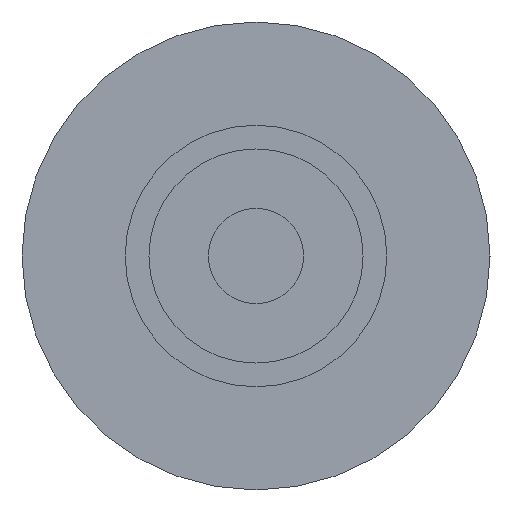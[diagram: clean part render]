
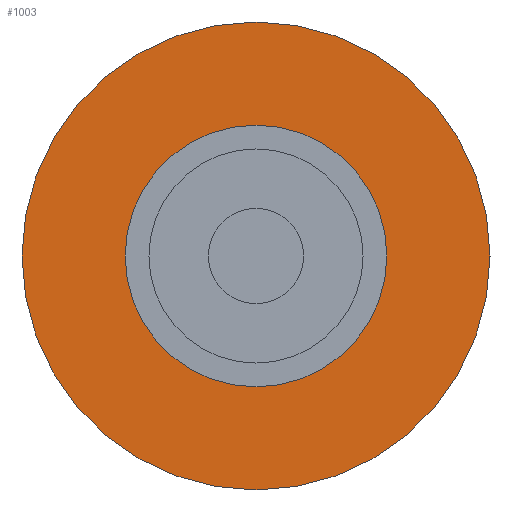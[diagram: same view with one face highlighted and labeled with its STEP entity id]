
A CAD part, left-side view. The second image highlights one B-rep face of the part: STEP entity #1003.
In plain terms, the highlighted planar face has unit normal (-1, 0, 0).
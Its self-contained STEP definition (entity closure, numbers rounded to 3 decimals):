
#960=CARTESIAN_POINT('',(-15.779,3113.455,-14.668));
#961=VERTEX_POINT('',#960);
#962=CARTESIAN_POINT('',(-15.779,3113.455,0.082));
#963=DIRECTION('',(1.0,0.0,0.0));
#964=DIRECTION('',(0.0,0.0,1.0));
#965=AXIS2_PLACEMENT_3D('',#962,#963,#964);
#966=CIRCLE('',#965,14.75);
#967=EDGE_CURVE('',#961,#961,#966,.T.);
#980=CARTESIAN_POINT('',(-15.779,3113.455,8.332));
#981=VERTEX_POINT('',#980);
#982=CARTESIAN_POINT('',(-15.779,3113.455,0.082));
#983=DIRECTION('',(-1.0,0.0,0.0));
#984=DIRECTION('',(0.0,0.0,-1.0));
#985=AXIS2_PLACEMENT_3D('',#982,#983,#984);
#986=CIRCLE('',#985,8.25);
#987=EDGE_CURVE('',#981,#981,#986,.T.);
#992=CARTESIAN_POINT('',(-15.779,3077.845,-35.528));
#993=DIRECTION('',(-1.0,0.0,0.0));
#994=DIRECTION('',(0.0,0.0,1.0));
#995=AXIS2_PLACEMENT_3D('',#992,#993,#994);
#996=PLANE('',#995);
#997=ORIENTED_EDGE('',*,*,#967,.F.);
#998=EDGE_LOOP('',(#997));
#999=FACE_OUTER_BOUND('',#998,.T.);
#1000=ORIENTED_EDGE('',*,*,#987,.F.);
#1001=EDGE_LOOP('',(#1000));
#1002=FACE_BOUND('',#1001,.T.);
#1003=ADVANCED_FACE('',(#999,#1002),#996,.T.);
